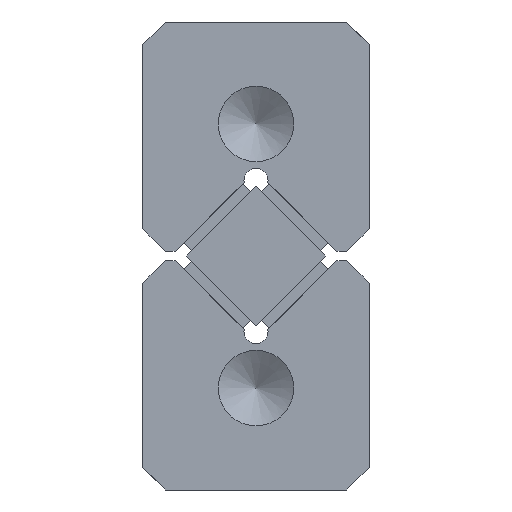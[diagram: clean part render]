
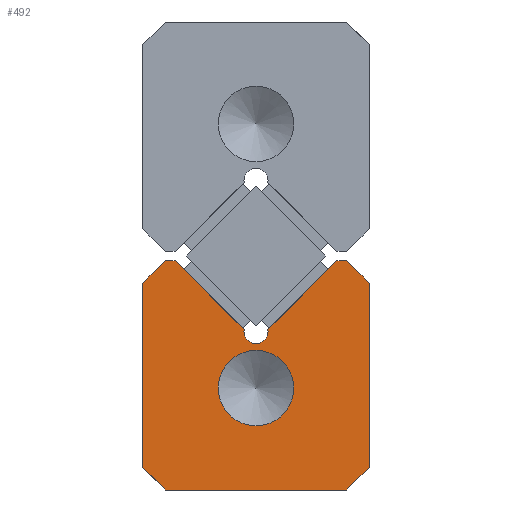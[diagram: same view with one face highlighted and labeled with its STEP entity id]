
A CAD part, left-side view. The second image highlights one B-rep face of the part: STEP entity #492.
In plain terms, the highlighted planar face has unit normal (-1, 0, 0).
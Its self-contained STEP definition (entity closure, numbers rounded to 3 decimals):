
#184=CARTESIAN_POINT('',(0.0,2.5,0.75));
#185=VERTEX_POINT('',#184);
#186=CARTESIAN_POINT('',(0.0,0.0,0.75));
#187=DIRECTION('',(1.0,0.0,0.0));
#188=DIRECTION('',(0.0,1.0,0.0));
#189=AXIS2_PLACEMENT_3D('',#186,#187,#188);
#190=CIRCLE('',#189,2.5);
#191=EDGE_CURVE('',#185,#185,#190,.T.);
#214=CARTESIAN_POINT('',(0.0,-6.,9.2));
#215=VERTEX_POINT('',#214);
#222=CARTESIAN_POINT('',(0.0,-7.5,7.7));
#223=VERTEX_POINT('',#222);
#224=CARTESIAN_POINT('',(0.0,-6.,9.2));
#225=DIRECTION('',(0.0,-0.707,-0.707));
#226=VECTOR('',#225,2.121);
#227=LINE('',#224,#226);
#228=EDGE_CURVE('',#215,#223,#227,.T.);
#253=CARTESIAN_POINT('',(0.0,-5.357,9.2));
#254=VERTEX_POINT('',#253);
#261=CARTESIAN_POINT('',(0.0,-5.357,9.2));
#262=DIRECTION('',(0.0,-1.0,0.0));
#263=VECTOR('',#262,0.643);
#264=LINE('',#261,#263);
#265=EDGE_CURVE('',#254,#215,#264,.T.);
#368=CARTESIAN_POINT('',(0.0,-7.5,-4.5));
#369=VERTEX_POINT('',#368);
#376=CARTESIAN_POINT('',(0.0,-6.,-6.));
#377=VERTEX_POINT('',#376);
#378=CARTESIAN_POINT('',(0.0,-7.5,-4.5));
#379=DIRECTION('',(0.0,0.707,-0.707));
#380=VECTOR('',#379,2.121);
#381=LINE('',#378,#380);
#382=EDGE_CURVE('',#369,#377,#381,.T.);
#399=CARTESIAN_POINT('',(0.0,6.,-6.));
#400=VERTEX_POINT('',#399);
#401=CARTESIAN_POINT('',(0.0,-6.,-6.));
#402=DIRECTION('',(0.0,1.0,0.0));
#403=VECTOR('',#402,12.);
#404=LINE('',#401,#403);
#405=EDGE_CURVE('',#377,#400,#404,.T.);
#417=CARTESIAN_POINT('',(0.0,0.,1.512));
#418=DIRECTION('',(1.0,0.0,0.0));
#419=DIRECTION('',(0.0,0.0,-1.0));
#420=AXIS2_PLACEMENT_3D('',#417,#418,#419);
#421=PLANE('',#420);
#422=ORIENTED_EDGE('',*,*,#228,.F.);
#423=ORIENTED_EDGE('',*,*,#265,.F.);
#424=CARTESIAN_POINT('',(0.0,-0.789,4.632));
#425=VERTEX_POINT('',#424);
#426=CARTESIAN_POINT('',(0.0,-0.789,4.632));
#427=DIRECTION('',(0.0,-0.707,0.707));
#428=VECTOR('',#427,6.46);
#429=LINE('',#426,#428);
#430=EDGE_CURVE('',#425,#254,#429,.T.);
#431=ORIENTED_EDGE('',*,*,#430,.F.);
#432=CARTESIAN_POINT('',(0.0,0.789,4.632));
#433=VERTEX_POINT('',#432);
#434=CARTESIAN_POINT('',(0.0,0.0,4.5));
#435=DIRECTION('',(-1.,0.0,0.0));
#436=DIRECTION('',(0.0,0.986,-0.165));
#437=AXIS2_PLACEMENT_3D('',#434,#435,#436);
#438=CIRCLE('',#437,0.8);
#439=EDGE_CURVE('',#433,#425,#438,.T.);
#440=ORIENTED_EDGE('',*,*,#439,.F.);
#441=CARTESIAN_POINT('',(0.0,5.357,9.2));
#442=VERTEX_POINT('',#441);
#443=CARTESIAN_POINT('',(0.0,5.357,9.2));
#444=DIRECTION('',(0.0,-0.707,-0.707));
#445=VECTOR('',#444,6.46);
#446=LINE('',#443,#445);
#447=EDGE_CURVE('',#442,#433,#446,.T.);
#448=ORIENTED_EDGE('',*,*,#447,.F.);
#449=CARTESIAN_POINT('',(0.0,6.,9.2));
#450=VERTEX_POINT('',#449);
#451=CARTESIAN_POINT('',(0.0,6.,9.2));
#452=DIRECTION('',(0.0,-1.0,0.0));
#453=VECTOR('',#452,0.643);
#454=LINE('',#451,#453);
#455=EDGE_CURVE('',#450,#442,#454,.T.);
#456=ORIENTED_EDGE('',*,*,#455,.F.);
#457=CARTESIAN_POINT('',(0.0,7.5,7.7));
#458=VERTEX_POINT('',#457);
#459=CARTESIAN_POINT('',(0.0,7.5,7.7));
#460=DIRECTION('',(0.0,-0.707,0.707));
#461=VECTOR('',#460,2.121);
#462=LINE('',#459,#461);
#463=EDGE_CURVE('',#458,#450,#462,.T.);
#464=ORIENTED_EDGE('',*,*,#463,.F.);
#465=CARTESIAN_POINT('',(0.0,7.5,-4.5));
#466=VERTEX_POINT('',#465);
#467=CARTESIAN_POINT('',(0.0,7.5,-4.5));
#468=DIRECTION('',(0.0,0.0,1.0));
#469=VECTOR('',#468,12.2);
#470=LINE('',#467,#469);
#471=EDGE_CURVE('',#466,#458,#470,.T.);
#472=ORIENTED_EDGE('',*,*,#471,.F.);
#473=CARTESIAN_POINT('',(0.0,6.,-6.));
#474=DIRECTION('',(0.0,0.707,0.707));
#475=VECTOR('',#474,2.121);
#476=LINE('',#473,#475);
#477=EDGE_CURVE('',#400,#466,#476,.T.);
#478=ORIENTED_EDGE('',*,*,#477,.F.);
#479=ORIENTED_EDGE('',*,*,#405,.F.);
#480=ORIENTED_EDGE('',*,*,#382,.F.);
#481=CARTESIAN_POINT('',(0.0,-7.5,7.7));
#482=DIRECTION('',(0.0,0.0,-1.0));
#483=VECTOR('',#482,12.2);
#484=LINE('',#481,#483);
#485=EDGE_CURVE('',#223,#369,#484,.T.);
#486=ORIENTED_EDGE('',*,*,#485,.F.);
#487=EDGE_LOOP('',(#422,#423,#431,#440,#448,#456,#464,#472,#478,#479,#480,#486));
#488=FACE_OUTER_BOUND('',#487,.T.);
#489=ORIENTED_EDGE('',*,*,#191,.T.);
#490=EDGE_LOOP('',(#489));
#491=FACE_BOUND('',#490,.T.);
#492=ADVANCED_FACE('',(#488,#491),#421,.F.);
